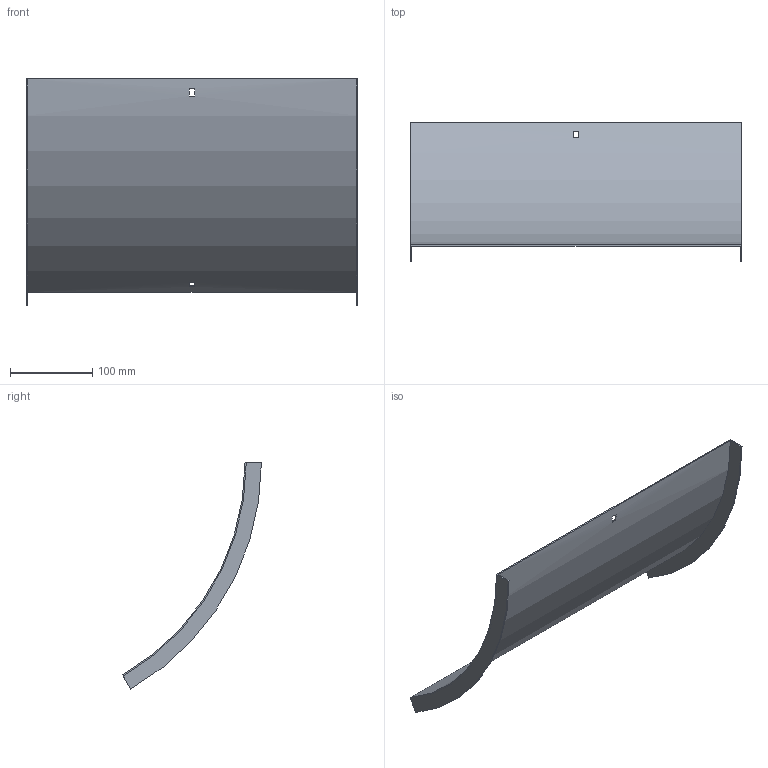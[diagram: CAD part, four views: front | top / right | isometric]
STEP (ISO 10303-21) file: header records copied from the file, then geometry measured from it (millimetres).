
FILE_DESCRIPTION (( 'STEP AP214' ), '1' );
FILE_NAME ('B2X40N3R400X.step', '2025-03-20T09:44:37', ( '' ), ( '' ), 'SwSTEP 2.0', 'SolidWorks 2023', '' );
FILE_SCHEMA (( 'AUTOMOTIVE_DESIGN' ));
Length unit declared in the file: millimetre
Products named in the file (1): B2X40N3R400X
Bounding box: 403 x 169.25 x 275.83 mm (x, y, z)
Volume: 207232.2 mm3; surface area: 278721 mm2
Topology: 1 solids, 1 shells, 18 faces, 48 edges, 32 vertices
Faces by surface type: plane 14, cylinder 4
Entity records: 599 total; most frequent: DIRECTION 102, CARTESIAN_POINT 99, ORIENTED_EDGE 96, EDGE_CURVE 48, AXIS2_PLACEMENT_3D 35, LINE 32, VERTEX_POINT 32, VECTOR 32
